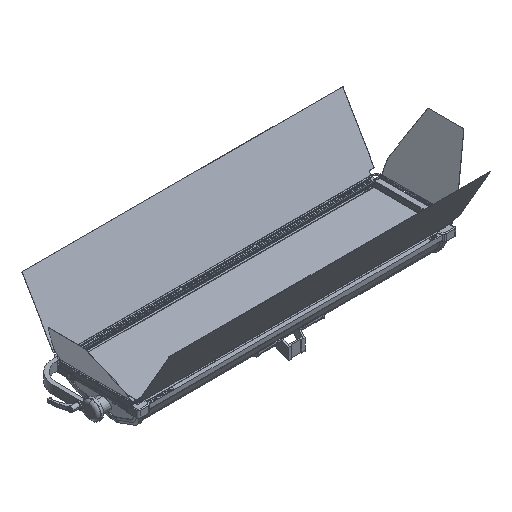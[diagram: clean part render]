
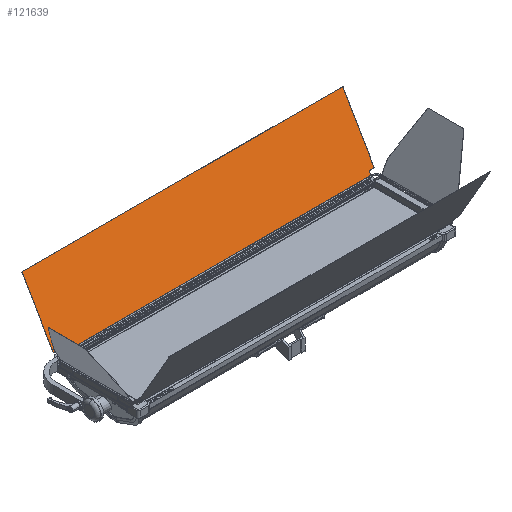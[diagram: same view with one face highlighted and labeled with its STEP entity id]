
A CAD part, isometric view. The second image highlights one B-rep face of the part: STEP entity #121639.
In plain terms, the highlighted planar face has unit normal (0, -0.866, 0.5).
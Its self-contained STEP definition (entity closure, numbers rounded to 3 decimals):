
#4 = AXIS2_PLACEMENT_3D ( 'NONE', #43741, #110375, #53388 ) ;
#562 = DIRECTION ( 'NONE',  ( 0., 0.5, 0.866 ) ) ;
#1460 = ORIENTED_EDGE ( 'NONE', *, *, #85871, .T. ) ;
#3971 = EDGE_CURVE ( 'NONE', #73522, #21346, #20279, .T. ) ;
#5932 = CARTESIAN_POINT ( 'NONE',  ( -648., 167.165, -1.25 ) ) ;
#6103 = VERTEX_POINT ( 'NONE', #96287 ) ;
#7352 = DIRECTION ( 'NONE',  ( 0., 0.5, 0.866 ) ) ;
#7633 = EDGE_CURVE ( 'NONE', #10902, #21346, #15298, .T. ) ;
#9310 = LINE ( 'NONE', #30028, #76360 ) ;
#9834 = EDGE_CURVE ( 'NONE', #111177, #123242, #90630, .T. ) ;
#10118 = CARTESIAN_POINT ( 'NONE',  ( -703.5, 163.665, -7.312 ) ) ;
#10902 = VERTEX_POINT ( 'NONE', #5932 ) ;
#11813 = CARTESIAN_POINT ( 'NONE',  ( -670., 306.165, 239.505 ) ) ;
#12133 = VERTEX_POINT ( 'NONE', #43152 ) ;
#13154 = AXIS2_PLACEMENT_3D ( 'NONE', #121481, #64497, #7352 ) ;
#15298 = LINE ( 'NONE', #26878, #65984 ) ;
#16670 = VERTEX_POINT ( 'NONE', #82286 ) ;
#17651 = VERTEX_POINT ( 'NONE', #61672 ) ;
#20279 = CIRCLE ( 'NONE', #13154, 6. ) ;
#20577 = ORIENTED_EDGE ( 'NONE', *, *, #95364, .T. ) ;
#21346 = VERTEX_POINT ( 'NONE', #117947 ) ;
#23372 = VECTOR ( 'NONE', #53579, 1000. ) ;
#24525 = AXIS2_PLACEMENT_3D ( 'NONE', #40926, #107592, #50583 ) ;
#25893 = LINE ( 'NONE', #11813, #98970 ) ;
#26700 = CARTESIAN_POINT ( 'NONE',  ( -654., 175.665, 13.472 ) ) ;
#26878 = CARTESIAN_POINT ( 'NONE',  ( -648., 167.165, -1.25 ) ) ;
#28531 = CIRCLE ( 'NONE', #4, 2. ) ;
#29119 = CARTESIAN_POINT ( 'NONE',  ( 648., 167.165, -1.25 ) ) ;
#29640 = DIRECTION ( 'NONE',  ( 0., 0.866, -0.5 ) ) ;
#30028 = CARTESIAN_POINT ( 'NONE',  ( 668., 307.165, 241.237 ) ) ;
#30309 = ORIENTED_EDGE ( 'NONE', *, *, #85613, .T. ) ;
#31695 = ORIENTED_EDGE ( 'NONE', *, *, #3971, .T. ) ;
#33283 = CARTESIAN_POINT ( 'NONE',  ( 654., 175.665, 13.472 ) ) ;
#34343 = CARTESIAN_POINT ( 'NONE',  ( 670., 306.165, 239.505 ) ) ;
#35512 = AXIS2_PLACEMENT_3D ( 'NONE', #42636, #109270, #52284 ) ;
#38860 = PLANE ( 'NONE',  #122831 ) ;
#39870 = VECTOR ( 'NONE', #42889, 1000. ) ;
#40117 = ORIENTED_EDGE ( 'NONE', *, *, #88647, .T. ) ;
#40926 = CARTESIAN_POINT ( 'NONE',  ( 668., 306.165, 239.505 ) ) ;
#41624 = CARTESIAN_POINT ( 'NONE',  ( -668., 307.165, 241.237 ) ) ;
#42636 = CARTESIAN_POINT ( 'NONE',  ( 654., 172.665, 8.276 ) ) ;
#42889 = DIRECTION ( 'NONE',  ( 1., 0., 0. ) ) ;
#43152 = CARTESIAN_POINT ( 'NONE',  ( 668., 307.165, 241.237 ) ) ;
#43741 = CARTESIAN_POINT ( 'NONE',  ( -668., 176.665, 15.204 ) ) ;
#46920 = EDGE_CURVE ( 'NONE', #12133, #17651, #91831, .T. ) ;
#48466 = DIRECTION ( 'NONE',  ( 0., 0.5, 0.866 ) ) ;
#48733 = LINE ( 'NONE', #34343, #23372 ) ;
#49369 = VERTEX_POINT ( 'NONE', #41624 ) ;
#49466 = LINE ( 'NONE', #100607, #94117 ) ;
#50583 = DIRECTION ( 'NONE',  ( 0., 0.5, 0.866 ) ) ;
#52284 = DIRECTION ( 'NONE',  ( 0., 0.5, 0.866 ) ) ;
#53199 = CIRCLE ( 'NONE', #80278, 2. ) ;
#53214 = DIRECTION ( 'NONE',  ( -1., 0., 0. ) ) ;
#53388 = DIRECTION ( 'NONE',  ( -1., 0., 0. ) ) ;
#53579 = DIRECTION ( 'NONE',  ( 0., -0.5, -0.866 ) ) ;
#54223 = EDGE_CURVE ( 'NONE', #100070, #123242, #53199, .T. ) ;
#54887 = CIRCLE ( 'NONE', #35512, 6. ) ;
#57674 = DIRECTION ( 'NONE',  ( 0., -0.866, 0.5 ) ) ;
#58432 = ORIENTED_EDGE ( 'NONE', *, *, #9834, .T. ) ;
#61672 = CARTESIAN_POINT ( 'NONE',  ( 670., 306.165, 239.505 ) ) ;
#64497 = DIRECTION ( 'NONE',  ( 0., 0.866, -0.5 ) ) ;
#65512 = DIRECTION ( 'NONE',  ( -1., 0., 0. ) ) ;
#65984 = VECTOR ( 'NONE', #93541, 1000. ) ;
#67318 = EDGE_CURVE ( 'NONE', #16670, #10902, #49466, .T. ) ;
#70495 = ORIENTED_EDGE ( 'NONE', *, *, #7633, .F. ) ;
#73522 = VERTEX_POINT ( 'NONE', #91542 ) ;
#76040 = ORIENTED_EDGE ( 'NONE', *, *, #54223, .F. ) ;
#76360 = VECTOR ( 'NONE', #106266, 1000. ) ;
#76458 = ORIENTED_EDGE ( 'NONE', *, *, #82872, .F. ) ;
#76751 = ORIENTED_EDGE ( 'NONE', *, *, #122555, .T. ) ;
#77056 = EDGE_LOOP ( 'NONE', ( #70495, #106303, #20577, #76458, #58432, #76040, #77720, #110285, #30309, #76751, #40117, #1460, #121551, #31695 ) ) ;
#77720 = ORIENTED_EDGE ( 'NONE', *, *, #96138, .F. ) ;
#80278 = AXIS2_PLACEMENT_3D ( 'NONE', #86758, #29640, #96290 ) ;
#81606 = VECTOR ( 'NONE', #65512, 1000. ) ;
#82286 = CARTESIAN_POINT ( 'NONE',  ( 648., 167.165, -1.25 ) ) ;
#82872 = EDGE_CURVE ( 'NONE', #111177, #94904, #54887, .T. ) ;
#83125 = EDGE_CURVE ( 'NONE', #73522, #102633, #106918, .T. ) ;
#85613 = EDGE_CURVE ( 'NONE', #12133, #49369, #9310, .T. ) ;
#85871 = EDGE_CURVE ( 'NONE', #6103, #102633, #28531, .T. ) ;
#86252 = DIRECTION ( 'NONE',  ( 0., 0.5, 0.866 ) ) ;
#86595 = VERTEX_POINT ( 'NONE', #114604 ) ;
#86758 = CARTESIAN_POINT ( 'NONE',  ( 668., 176.665, 15.204 ) ) ;
#88647 = EDGE_CURVE ( 'NONE', #86595, #6103, #25893, .T. ) ;
#90279 = CARTESIAN_POINT ( 'NONE',  ( 648., 172.665, 8.276 ) ) ;
#90630 = LINE ( 'NONE', #33283, #39870 ) ;
#90843 = CIRCLE ( 'NONE', #109338, 2. ) ;
#91542 = CARTESIAN_POINT ( 'NONE',  ( -654., 175.665, 13.472 ) ) ;
#91831 = CIRCLE ( 'NONE', #24525, 2. ) ;
#93541 = DIRECTION ( 'NONE',  ( 0., 0.5, 0.866 ) ) ;
#94117 = VECTOR ( 'NONE', #53214, 1000. ) ;
#94904 = VERTEX_POINT ( 'NONE', #90279 ) ;
#95364 = EDGE_CURVE ( 'NONE', #16670, #94904, #109888, .T. ) ;
#96138 = EDGE_CURVE ( 'NONE', #17651, #100070, #48733, .T. ) ;
#96287 = CARTESIAN_POINT ( 'NONE',  ( -670., 176.665, 15.204 ) ) ;
#96290 = DIRECTION ( 'NONE',  ( 1., 0., 0. ) ) ;
#97484 = CARTESIAN_POINT ( 'NONE',  ( 670., 176.665, 15.204 ) ) ;
#98026 = DIRECTION ( 'NONE',  ( 0., -0.5, -0.866 ) ) ;
#98970 = VECTOR ( 'NONE', #98026, 1000. ) ;
#100070 = VERTEX_POINT ( 'NONE', #97484 ) ;
#100607 = CARTESIAN_POINT ( 'NONE',  ( 648., 167.165, -1.25 ) ) ;
#102633 = VERTEX_POINT ( 'NONE', #102966 ) ;
#102966 = CARTESIAN_POINT ( 'NONE',  ( -668., 175.665, 13.472 ) ) ;
#105502 = DIRECTION ( 'NONE',  ( 0., 0.866, -0.5 ) ) ;
#106266 = DIRECTION ( 'NONE',  ( -1., 0., 0. ) ) ;
#106303 = ORIENTED_EDGE ( 'NONE', *, *, #67318, .F. ) ;
#106918 = LINE ( 'NONE', #26700, #81606 ) ;
#107592 = DIRECTION ( 'NONE',  ( 0., 0.866, -0.5 ) ) ;
#109270 = DIRECTION ( 'NONE',  ( 0., -0.866, 0.5 ) ) ;
#109338 = AXIS2_PLACEMENT_3D ( 'NONE', #114663, #57674, #562 ) ;
#109888 = LINE ( 'NONE', #29119, #112859 ) ;
#110285 = ORIENTED_EDGE ( 'NONE', *, *, #46920, .F. ) ;
#110375 = DIRECTION ( 'NONE',  ( 0., -0.866, 0.5 ) ) ;
#110393 = FACE_OUTER_BOUND ( 'NONE', #77056, .T. ) ;
#111177 = VERTEX_POINT ( 'NONE', #119089 ) ;
#112859 = VECTOR ( 'NONE', #86252, 1000. ) ;
#114604 = CARTESIAN_POINT ( 'NONE',  ( -670., 306.165, 239.505 ) ) ;
#114663 = CARTESIAN_POINT ( 'NONE',  ( -668., 306.165, 239.505 ) ) ;
#117947 = CARTESIAN_POINT ( 'NONE',  ( -648., 172.665, 8.276 ) ) ;
#119089 = CARTESIAN_POINT ( 'NONE',  ( 654., 175.665, 13.472 ) ) ;
#120703 = CARTESIAN_POINT ( 'NONE',  ( 668., 175.665, 13.472 ) ) ;
#121481 = CARTESIAN_POINT ( 'NONE',  ( -654., 172.665, 8.276 ) ) ;
#121551 = ORIENTED_EDGE ( 'NONE', *, *, #83125, .F. ) ;
#121639 = ADVANCED_FACE ( 'NONE', ( #110393 ), #38860, .F. ) ;
#122555 = EDGE_CURVE ( 'NONE', #49369, #86595, #90843, .T. ) ;
#122831 = AXIS2_PLACEMENT_3D ( 'NONE', #10118, #105502, #48466 ) ;
#123242 = VERTEX_POINT ( 'NONE', #120703 ) ;
